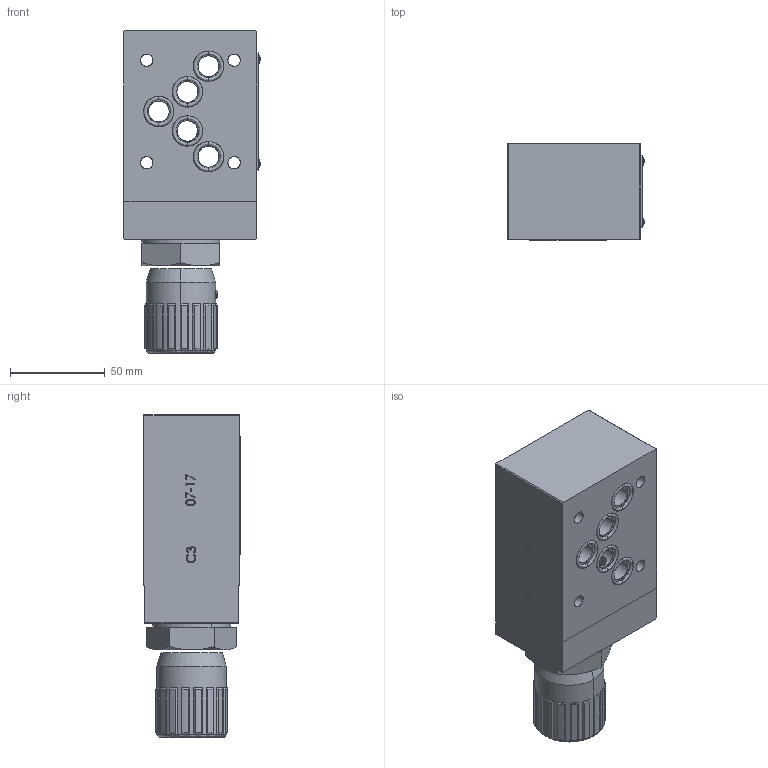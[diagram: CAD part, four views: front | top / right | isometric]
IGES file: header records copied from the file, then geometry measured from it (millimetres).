
Start section: SolidWorks IGES file using analytic representation for surfaces
Global section: file name: C:\Users\pc-te25\Desktop\357-5-B-05.IGS; native system: SolidWorks 2018; preprocessor: SolidWorks 2018; author: pc-te25; date: 191204.084931; units: millimetre
Bounding box: 71.66 x 50.58 x 169.8 mm (x, y, z)
Surface area: 57577.9 mm2 (no closed solid volume)
Topology: 0 solids, 0 shells, 760 faces, 13810 edges, 13810 vertices
Faces by surface type: bspline 572, revolution 188
